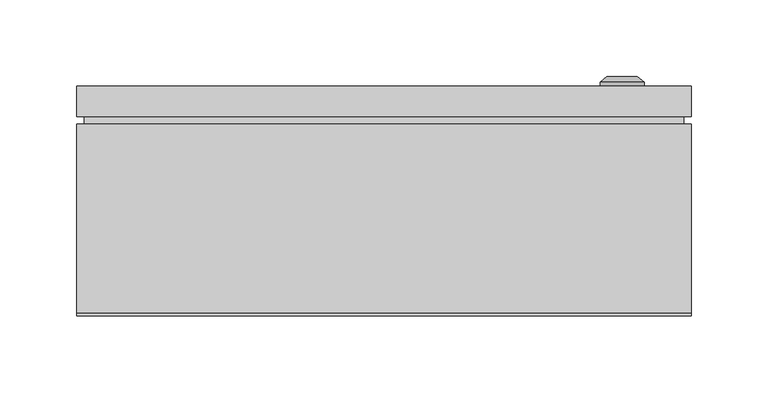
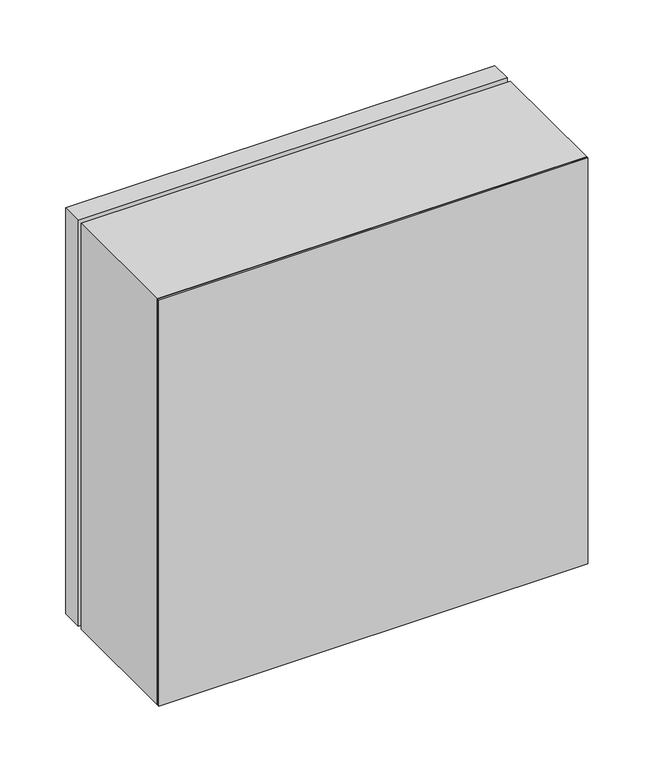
"""IFC4 building model written with IfcOpenShell, lengths in millimetres: proxy geometry, ЩМП_IP65 : ЩМП-4.4.1-0_400х400х150."""

from ifc_helpers import new_model, si_unit, frame, origin, origin_with_axes, place, context, project, spatial, polyline, circle_curve, outline, extrude, source, transform, mapped, element, save
from ifc_brep_helpers import plane_surface, cylinder_surface, revolved_surface, advanced_brep


def electrical_equipment_dda69106(model_context):
    return source(origin(), model_context, "Body", "SolidModel", [
        extrude(outline(polyline([(195.0, 125.0), (-195.0, 125.0), (-195.0, 130.0), (195.0, 130.0), (195.0, 125.0)])), frame((0.0, 0.0, 5.0), z_axis=(0.0, 0.0, 1.0), x_axis=(1.0, 0.0, 0.0)), (0.0, 0.0, 1.0), 390.0),
        extrude(outline(polyline([(200.0, 130.0), (-200.0, 130.0), (-200.0, 150.0), (200.0, 150.0), (200.0, 130.0)])), origin_with_axes(), (0.0, 0.0, 1.0), 400.0),
        advanced_brep(
        [(140.669873, 150.0, 200.0), (169.330127, 150.0, 200.0), (155.0, 150.0, 200.0), (140.669873, 152.366592, 200.0), (169.330127, 152.366592, 200.0), (145.0, 156.0, 200.0), (165.0, 156.0, 200.0), (153.1080471, 156.0, 200.0), (156.8919529, 156.0, 200.0), (153.1080471, 154.9822294, 200.0), (156.8919529, 154.9822294, 200.0), (155.0, 154.9822294, 200.0)],
        [
            (0, 1, circle_curve(frame((155.0, 150.0, 200.0), z_axis=(0.0, -1.0, 0.0), x_axis=(1.0, 0.0, 0.0)), 14.330127)),
            (1, 2),
            (2, 0),
            (1, 0, circle_curve(frame((155.0, 150.0, 200.0), z_axis=(0.0, -1.0, 0.0), x_axis=(1.0, 0.0, 0.0)), 14.330127)),
            (3, 4, circle_curve(frame((155.0, 152.366592, 200.0), z_axis=(0.0, -1.0, 0.0), x_axis=(1.0, 0.0, 0.0)), 14.330127)),
            (4, 1),
            (0, 3),
            (4, 3, circle_curve(frame((155.0, 152.366592, 200.0), z_axis=(0.0, -1.0, 0.0), x_axis=(1.0, 0.0, 0.0)), 14.330127)),
            (5, 6, circle_curve(frame((155.0, 156.0, 200.0), z_axis=(0.0, -1.0, 0.0), x_axis=(1.0, 0.0, 0.0)), 10.0)),
            (6, 4),
            (3, 5),
            (6, 5, circle_curve(frame((155.0, 156.0, 200.0), z_axis=(0.0, -1.0, 0.0), x_axis=(1.0, 0.0, 0.0)), 10.0)),
            (7, 8, circle_curve(frame((155.0, 156.0, 200.0), z_axis=(0.0, -1.0, 0.0), x_axis=(1.0, 0.0, 0.0)), 1.8919529)),
            (8, 6),
            (5, 7),
            (8, 7, circle_curve(frame((155.0, 156.0, 200.0), z_axis=(0.0, -1.0, 0.0), x_axis=(1.0, 0.0, 0.0)), 1.8919529)),
            (9, 10, circle_curve(frame((155.0, 154.9822294, 200.0), z_axis=(0.0, -1.0, 0.0), x_axis=(1.0, 0.0, 0.0)), 1.8919529)),
            (10, 8),
            (7, 9),
            (10, 9, circle_curve(frame((155.0, 154.9822294, 200.0), z_axis=(0.0, -1.0, 0.0), x_axis=(1.0, 0.0, 0.0)), 1.8919529)),
            (11, 10),
            (9, 11),
        ],
        [
            plane_surface(frame((155.0, 150.0, 200.0), z_axis=(0.0, -1.0, 0.0), x_axis=(1.0, 0.0, 0.0))),
            cylinder_surface(frame((155.0, 163.1348851, 200.0), z_axis=(0.0, 1.0, 0.0), x_axis=(1.0, 0.0, 0.0)), 14.330127),
            revolved_surface(polyline([(169.330127, 152.366592, 200.0), (165.0, 156.0, 200.0)]), (155.0, 163.1348851, 200.0), (0.0, 1.0, 0.0)),
            plane_surface(frame((155.0, 156.0, 200.0), z_axis=(0.0, 1.0, 0.0), x_axis=(1.0, 0.0, 0.0))),
            revolved_surface(polyline([(156.8919529, 156.0, 200.0), (156.8919529, 154.9822294, 200.0)]), (155.0, 163.1348851, 200.0), (0.0, 1.0, 0.0)),
            plane_surface(frame((155.0, 154.9822294, 200.0), z_axis=(0.0, 1.0, 0.0), x_axis=(1.0, 0.0, 0.0))),
        ],
        [
            (0, [[1, 2, 3]]),
            (0, [[4, -3, -2]]),
            (1, [[5, 6, -1, 7]]),
            (1, [[8, -7, -4, -6]]),
            (2, [[9, 10, -5, 11]]),
            (2, [[12, -11, -8, -10]]),
            (3, [[13, 14, -9, 15]]),
            (3, [[16, -15, -12, -14]]),
            (4, [[17, 18, -13, 19]]),
            (4, [[20, -19, -16, -18]]),
            (5, [[21, -17, 22]]),
            (5, [[-22, -20, -21]]),
        ],
    ),
        extrude(outline(polyline([(400.0, -200.0033905), (0.0, -200.0033905), (0.0, 199.9966095), (400.0, 199.9966095), (400.0, -200.0033905)]), holes=[polyline([(365.0, -165.0033905), (365.0, 164.9966095), (35.0, 164.9966095), (35.0, -165.0033905), (365.0, -165.0033905)])]), frame((0.0, 2.0, 0.0), z_axis=(0.0, 1.0, 0.0), x_axis=(0.0, 0.0, 1.0)), (0.0, 0.0, 1.0), 123.0),
        extrude(outline(polyline([(200.0, 0.0), (-200.0, 0.0), (-200.0, 2.0), (200.0, 2.0), (200.0, 0.0)])), origin_with_axes(), (0.0, 0.0, 1.0), 400.0),
    ])


if __name__ == "__main__":
    model = new_model("IFC4")
    model_context = context("Model", 3, world=origin())
    ifc_project = project(units=[si_unit("LENGTHUNIT", "METRE", prefix="MILLI")], contexts=[model_context])
    site = spatial("IfcSite", under=ifc_project)
    building = spatial("IfcBuilding", under=site)
    placement = place(None, origin())
    electrical_equipment_shape = electrical_equipment_dda69106(model_context)
    element("IfcBuildingElementProxy", 1, Name="ЩМП_IP65 : ЩМП-4.4.1-0_400х400х150", ObjectType="ЩМП_IP65 : ЩМП-4.4.1-0_400х400х150", at=placement, inside=building, context=model_context, shape_type="MappedRepresentation", body=[
        mapped(electrical_equipment_shape, transform((0.0, 0.0, 0.0), x_axis=(1.0, 0.0, 0.0), y_axis=(0.0, 1.0, 0.0), z_axis=(0.0, 0.0, 1.0))),
    ])
    save(model, "model.ifc")
